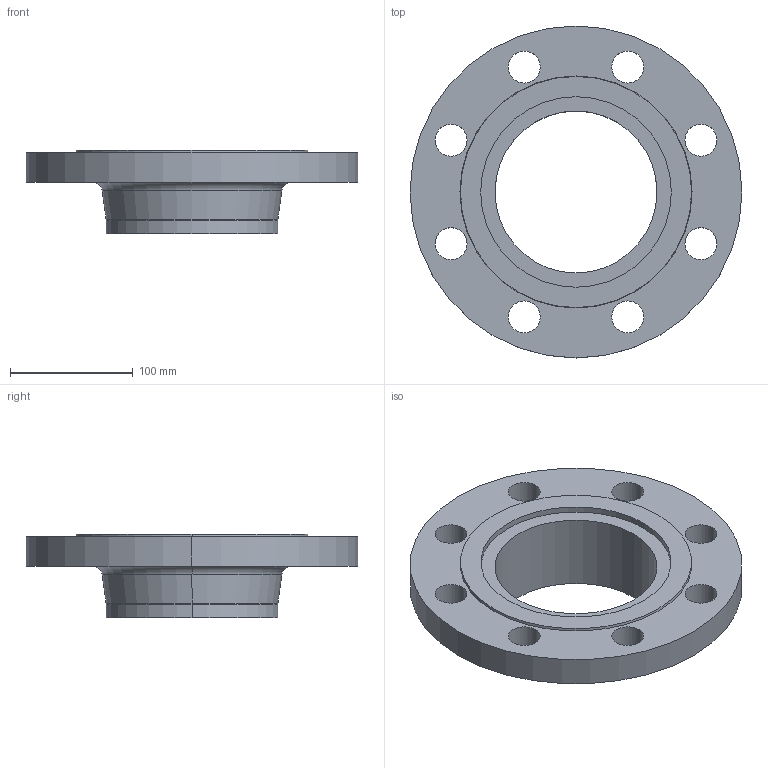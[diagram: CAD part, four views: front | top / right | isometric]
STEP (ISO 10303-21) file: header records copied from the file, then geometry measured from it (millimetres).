
FILE_DESCRIPTION (( 'STEP AP214' ), '1' );
FILE_NAME ('PN40 DN125 Type 11 - Type G Face.STEP', '2019-01-02T19:23:41', ( '' ), ( '' ), 'SwSTEP 2.0', 'SolidWorks 2019', '' );
FILE_SCHEMA (( 'AUTOMOTIVE_DESIGN' ));
Length unit declared in the file: millimetre
Products named in the file (1): PN40 DN125 Type 11 - Type G Face
Bounding box: 270 x 270 x 68 mm (x, y, z)
Volume: 1052309.8 mm3; surface area: 160250.1 mm2
Topology: 1 solids, 1 shells, 37 faces, 90 edges, 58 vertices
Faces by surface type: cylinder 24, plane 5, torus 4, cone 4
Entity records: 1188 total; most frequent: DIRECTION 228, CARTESIAN_POINT 186, ORIENTED_EDGE 180, AXIS2_PLACEMENT_3D 100, EDGE_CURVE 90, CIRCLE 62, EDGE_LOOP 58, VERTEX_POINT 58
